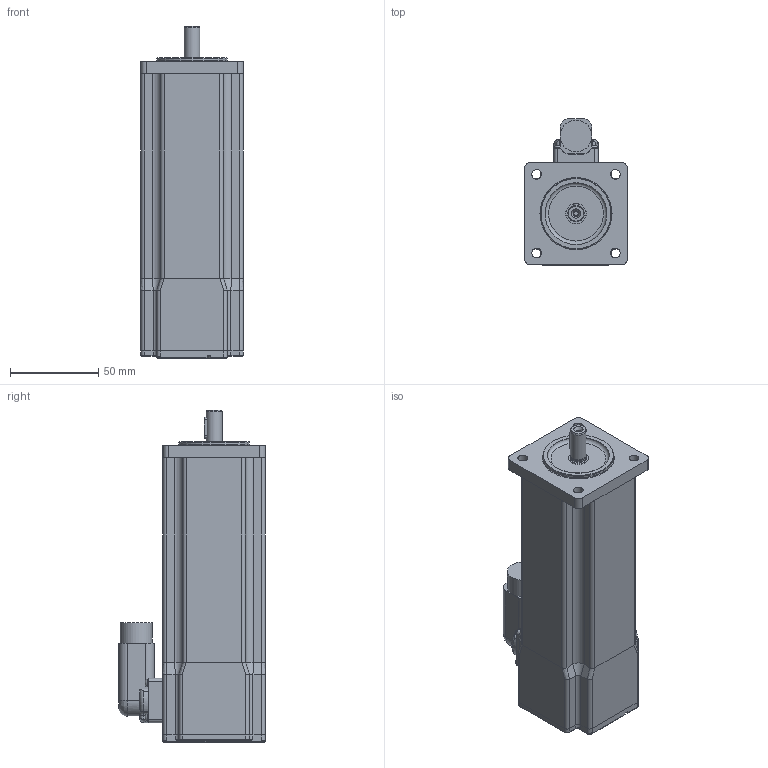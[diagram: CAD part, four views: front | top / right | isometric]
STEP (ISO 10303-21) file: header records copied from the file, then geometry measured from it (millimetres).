
FILE_DESCRIPTION(/* description */ (''),/* implementation_level */ '2;1');
FILE_NAME(/* name */ 'C:\Autodesk Vault\AUTODESK_VAULT\CAD\000-FERTIG Motors\BM055\_Gesamtbaugruppen\vereinfachte_Modelle\AM8122-xx11-0000.stp',/* time_stamp */ '2021-01-19T14:53:28+01:00',/* author */ ('NicoleM'),/* organization */ ('FERTIG Motors'),/* preprocessor_version */ 'ST-DEVELOPER v18.1',/* originating_system */ 'Autodesk Inventor 2020',/* authorisation */ '');
FILE_SCHEMA (('CONFIG_CONTROL_DESIGN'));
Length unit declared in the file: millimetre
Products named in the file (4): BM055-VM-01; BM055-VM-00; Intercontec-EEDC201NN00000805000_VM; DIN 6885-A3x3x12
Assembly tree (3 placements, depth 2):
  BM055-VM-01
    BM055-VM-00
    Intercontec-EEDC201NN00000805000_VM
    DIN 6885-A3x3x12
Bounding box: 58 x 83 x 188 mm (x, y, z)
Volume: 513562.6 mm3; surface area: 50474.2 mm2
Topology: 3 solids, 3 shells, 360 faces, 890 edges, 553 vertices
Faces by surface type: plane 185, cylinder 96, bspline 52, torus 21, cone 6
Full cylindrical faces by diameter (mm): 2.5 x1, 3.2 x1, 4.5 x2, 5.5 x4, 8.6 x1, 9 x1, 18 x1, 20.1 x1, 35 x1, 40 x1
Entity records: 11614 total; most frequent: CARTESIAN_POINT 2767, ORIENTED_EDGE 1772, DIRECTION 1670, EDGE_CURVE 886, AXIS2_PLACEMENT_3D 557, LINE 556, VECTOR 556, VERTEX_POINT 553
